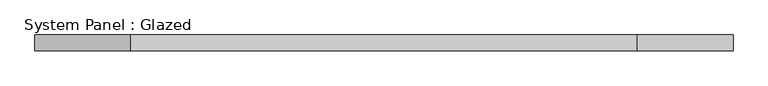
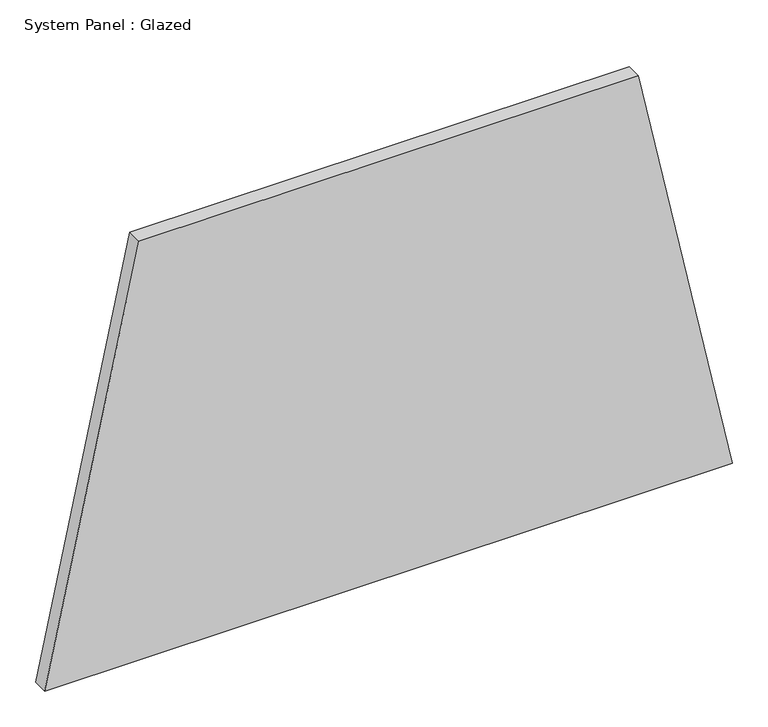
"""IFC4 building model written with IfcOpenShell, lengths in millimetres: plate geometry, System Panel : Glazed."""

import ifcopenshell
import ifcopenshell.guid

model = None  # the IFC model being written
_history = None  # IfcOwnerHistory: only IFC2X3 demands one
_inside = {}  # id of a spatial element -> (the spatial element, [elements in it])
_under = {}  # id of a project, library or spatial element -> (it, [spatial elements below it])
_declared = {}  # id of a project -> (the project, [libraries it declares])
_typed = {}  # id of a type object -> (the type object, [elements of that type])
_made_of = {}  # id of a material, layer set ... -> (it, [elements and type objects made of it])


def new_model(schema):
    """Start an empty IFC model of exactly this schema.

    Asked for "IFC4X3", IfcOpenShell would pick the latest addendum, in which some entities
    have other attributes; the version numbers below select the first issue.
    IFC2X3 requires an IfcOwnerHistory on every rooted entity: one is made here for all.
    """
    global model, _history
    if schema == "IFC4X3":
        model = ifcopenshell.file(schema_version=(4, 3, 0, 0))
    else:
        model = ifcopenshell.file(schema=schema)
    _inside.clear()
    _under.clear()
    _declared.clear()
    _typed.clear()
    _made_of.clear()
    _history = None
    if model.schema == "IFC2X3":
        org = make("IfcOrganization", Name="unknown")
        user = make(
            "IfcPersonAndOrganization",
            ThePerson=make("IfcPerson", FamilyName="unknown"),
            TheOrganization=org,
        )
        app = make(
            "IfcApplication",
            ApplicationDeveloper=org,
            Version="unknown",
            ApplicationFullName="unknown",
            ApplicationIdentifier="unknown",
        )
        _history = make(
            "IfcOwnerHistory",
            OwningUser=user,
            OwningApplication=app,
            ChangeAction="ADDED",
            CreationDate=0,
        )
    return model


def make(cls, **values):
    """One entity of the class cls with the attributes given. An attribute that is None is left unset."""
    return model.create_entity(
        cls, **{name: value for name, value in values.items() if value is not None}
    )


def rooted(cls, **values):
    """An entity with a GlobalId (a new one), such as an element, a storey or a relation."""
    return make(cls, GlobalId=ifcopenshell.guid.new(), OwnerHistory=_history, **values)


def si_unit(unit_type, name, prefix=None):
    """IfcSIUnit, for example si_unit("LENGTHUNIT", "METRE", prefix="MILLI")."""
    return make("IfcSIUnit", UnitType=unit_type, Prefix=prefix, Name=name)


def assignment(units):
    """IfcUnitAssignment: the units of a project."""
    return None if units is None else make("IfcUnitAssignment", Units=units)


def point(xyz):
    """IfcCartesianPoint."""
    return None if xyz is None else make("IfcCartesianPoint", Coordinates=xyz)


def direction(xyz):
    """IfcDirection."""
    return None if xyz is None else make("IfcDirection", DirectionRatios=xyz)


def frame(location, z_axis=None, x_axis=None):
    """IfcAxis2Placement3D, a coordinate frame: its origin and axes. An axis left out is left unset."""
    return make(
        "IfcAxis2Placement3D",
        Location=point(location),
        Axis=direction(z_axis),
        RefDirection=direction(x_axis),
    )


def origin():
    """The frame at (0, 0, 0) with its axes left unset."""
    return frame((0.0, 0.0, 0.0))


def place(relative_to, where):
    """IfcLocalPlacement: puts the frame where relative to a parent placement (None: the world)."""
    return make(
        "IfcLocalPlacement", PlacementRelTo=relative_to, RelativePlacement=where
    )


def context(
    kind, dimensions, precision=None, world=None, true_north=None, identifier=None
):
    """IfcGeometricRepresentationContext, for example the 3D "Model" context."""
    return make(
        "IfcGeometricRepresentationContext",
        ContextIdentifier=identifier,
        ContextType=kind,
        CoordinateSpaceDimension=dimensions,
        Precision=precision,
        WorldCoordinateSystem=world,
        TrueNorth=true_north,
    )


def project(units=None, contexts=None):
    """IfcProject with its units and contexts."""
    return rooted(
        "IfcProject",
        Name="project",
        RepresentationContexts=contexts,
        UnitsInContext=assignment(units),
    )


def spatial(cls, under=None, at=None, **own):
    """A site, building, storey or space (cls), placed at a placement, below another one or the project."""
    s = rooted(cls, ObjectPlacement=at, **own)
    if under is not None:
        _under.setdefault(under.id(), (under, []))[1].append(s)
    return s


def polyline(points):
    """IfcPolyline through the points."""
    return make("IfcPolyline", Points=[point(p) for p in points])


def outline(outer, holes=None, kind="AREA"):
    """IfcArbitraryClosedProfileDef: a profile drawn as a closed curve; with holes, ...WithVoids."""
    if holes is None:
        return make("IfcArbitraryClosedProfileDef", ProfileType=kind, OuterCurve=outer)
    return make(
        "IfcArbitraryProfileDefWithVoids",
        ProfileType=kind,
        OuterCurve=outer,
        InnerCurves=holes,
    )


def extrude(swept, where, along, depth):
    """IfcExtrudedAreaSolid: the profile swept, set in the frame where, extruded along a direction by depth."""
    return make(
        "IfcExtrudedAreaSolid",
        SweptArea=swept,
        Position=where,
        ExtrudedDirection=direction(along),
        Depth=depth,
    )


def shape(context_of_items, identifier, shape_type, items):
    """IfcShapeRepresentation: the items that make up one representation, for example the "Body"."""
    return make(
        "IfcShapeRepresentation",
        ContextOfItems=context_of_items,
        RepresentationIdentifier=identifier,
        RepresentationType=shape_type,
        Items=items,
    )


def source(mapping_origin, context_of_items, identifier, shape_type, items):
    """IfcRepresentationMap: a shape defined once, which mapped items show again and again."""
    return make(
        "IfcRepresentationMap",
        MappingOrigin=mapping_origin,
        MappedRepresentation=shape(context_of_items, identifier, shape_type, items),
    )


def transform(
    local_origin,
    x_axis=None,
    y_axis=None,
    z_axis=None,
    scale=None,
    scale2=None,
    scale3=None,
    uniform=True,
):
    """IfcCartesianTransformationOperator3D, or its non-uniform kind. x_axis, y_axis, z_axis: its Axis1, 2, 3."""
    if uniform:
        return make(
            "IfcCartesianTransformationOperator3D",
            Axis1=direction(x_axis),
            Axis2=direction(y_axis),
            LocalOrigin=point(local_origin),
            Scale=scale,
            Axis3=direction(z_axis),
        )
    return make(
        "IfcCartesianTransformationOperator3DnonUniform",
        Axis1=direction(x_axis),
        Axis2=direction(y_axis),
        LocalOrigin=point(local_origin),
        Scale=scale,
        Axis3=direction(z_axis),
        Scale2=scale2,
        Scale3=scale3,
    )


def mapped(mapping_source, mapping_target):
    """IfcMappedItem: shows the shape of a source again, moved by a transform."""
    return make(
        "IfcMappedItem", MappingSource=mapping_source, MappingTarget=mapping_target
    )


def made_of(thing, what):
    """Note that an element or type object is made of a material, layer set ...; save() writes the relation."""
    if what is not None:
        _made_of.setdefault(what.id(), (what, []))[1].append(thing)
    return thing


def element(
    cls,
    number,
    at=None,
    inside=None,
    cuts=None,
    type_object=None,
    material=None,
    context=None,
    identifier="Body",
    shape_type=None,
    held_by="IfcProductDefinitionShape",
    body=None,
    shapes=None,
    **own,
):
    """One element of the class cls, such as IfcWall. Its Tag is "e" and its number.

    at: its placement. inside: the storey or other place that contains it. cuts: it is an
    opening in that element (IfcRelVoidsElement). A single representation is given by context,
    identifier, shape_type and body (its items); several are given by shapes. held_by: the class
    of the entity that holds the representations. save() writes the other relations.
    """
    e = rooted(cls, Tag="e%d" % number, ObjectPlacement=at, **own)
    if body is not None:
        shapes = [shape(context, identifier, shape_type, body)]
    if shapes is not None:
        e.Representation = make(held_by, Representations=shapes)
    if inside is not None:
        _inside.setdefault(inside.id(), (inside, []))[1].append(e)
    if cuts is not None:
        rooted(
            "IfcRelVoidsElement", RelatingBuildingElement=cuts, RelatedOpeningElement=e
        )
    if type_object is not None:
        _typed.setdefault(type_object.id(), (type_object, []))[1].append(e)
    return made_of(e, material)


def aggregate(whole, parts):
    """IfcRelAggregates: a whole, such as a stair, and the parts it consists of."""
    return rooted("IfcRelAggregates", RelatingObject=whole, RelatedObjects=parts)


def save(model, path):
    """Write the relations noted so far, then the file.

    IfcRelAggregates (storeys below a building ...), IfcRelContainedInSpatialStructure (elements
    in a storey), IfcRelDefinesByType, IfcRelAssociatesMaterial and IfcRelDeclares: one each for
    every whole, place, type object, material and project.
    """
    for whole, parts in _under.values():
        aggregate(whole, parts)
    for where, things in _inside.values():
        rooted(
            "IfcRelContainedInSpatialStructure",
            RelatedElements=things,
            RelatingStructure=where,
        )
    for kind, things in _typed.values():
        rooted("IfcRelDefinesByType", RelatedObjects=things, RelatingType=kind)
    for what, things in _made_of.values():
        rooted("IfcRelAssociatesMaterial", RelatedObjects=things, RelatingMaterial=what)
    for by, libraries in _declared.values():
        rooted("IfcRelDeclares", RelatingContext=by, RelatedDefinitions=libraries)
    model.write(path)


def system_panel_glazed_82f63ae4(model_context):
    return source(origin(), model_context, "Body", "SweptSolid", [
        extrude(outline(polyline([(0.0, -559.0096266), (0.0, 559.0096266), (719.8713464, 405.630352), (719.8713464, -405.630352), (0.0, -559.0096266)])), frame((0.0, -44.45, 0.0), z_axis=(0.0, 1.0, 0.0), x_axis=(0.0, 0.0, 1.0)), (0.0, 0.0, 1.0), 25.4),
    ])


if __name__ == "__main__":
    model = new_model("IFC4")
    model_context = context("Model", 3, world=origin())
    ifc_project = project(units=[si_unit("LENGTHUNIT", "METRE", prefix="MILLI")], contexts=[model_context])
    site = spatial("IfcSite", under=ifc_project)
    building = spatial("IfcBuilding", under=site)
    placement = place(None, origin())
    system_panel_glazed_shape = system_panel_glazed_82f63ae4(model_context)
    element("IfcPlate", 1, ObjectType="System Panel : Glazed", at=placement, inside=building, context=model_context, shape_type="MappedRepresentation", body=[
        mapped(system_panel_glazed_shape, transform((0.0, 0.0, 0.0), x_axis=(1.0, 0.0, 0.0), y_axis=(0.0, 1.0, 0.0), z_axis=(0.0, 0.0, 1.0))),
    ])
    save(model, "model.ifc")
